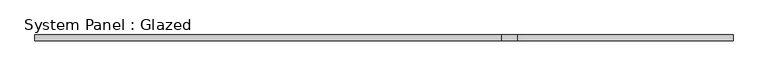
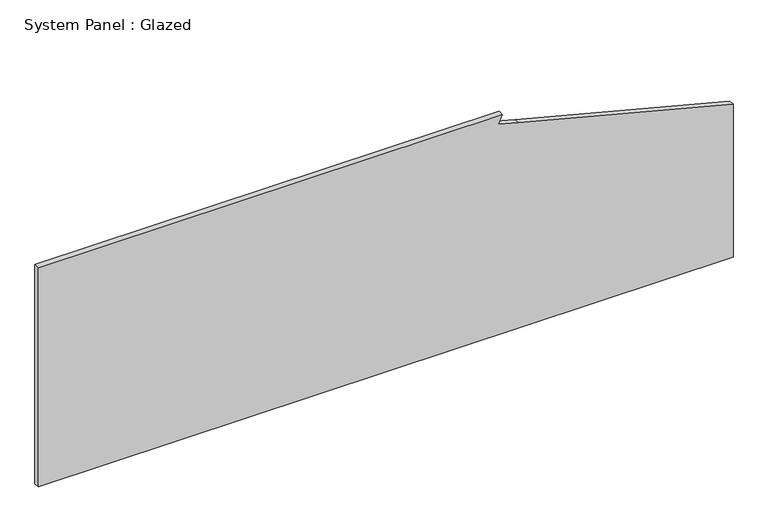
"""IFC4 building model written with IfcOpenShell, lengths in millimetres: plate geometry, System Panel : Glazed."""

from ifc_helpers import new_model, si_unit, frame, origin, place, context, project, spatial, polyline, outline, extrude, source, transform, mapped, element, save


def system_panel_glazed_97bb1392(model_context):
    return source(origin(), model_context, "Body", "SweptSolid", [
        extrude(outline(polyline([(0.0, -1504.95), (0.0, 1504.95), (700.3556126, 1504.95), (941.0731751, 575.8332166), (965.0332698, 487.0728761), (1003.3, 505.9732935), (1003.3, -1504.95), (0.0, -1504.95)])), frame((0.0, 19.05, 0.0), z_axis=(0.0, 1.0, 0.0), x_axis=(0.0, 0.0, 1.0)), (0.0, 0.0, 1.0), 25.4),
    ])


if __name__ == "__main__":
    model = new_model("IFC4")
    model_context = context("Model", 3, world=origin())
    ifc_project = project(units=[si_unit("LENGTHUNIT", "METRE", prefix="MILLI")], contexts=[model_context])
    site = spatial("IfcSite", under=ifc_project)
    building = spatial("IfcBuilding", under=site)
    placement = place(None, origin())
    system_panel_glazed_shape = system_panel_glazed_97bb1392(model_context)
    element("IfcPlate", 1, ObjectType="System Panel : Glazed", at=placement, inside=building, context=model_context, shape_type="MappedRepresentation", body=[
        mapped(system_panel_glazed_shape, transform((0.0, 0.0, 0.0), x_axis=(1.0, 0.0, 0.0), y_axis=(0.0, 1.0, 0.0), z_axis=(0.0, 0.0, 1.0))),
    ])
    save(model, "model.ifc")
